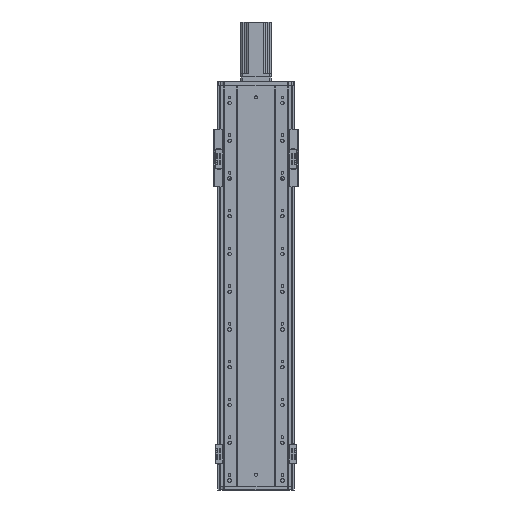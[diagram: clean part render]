
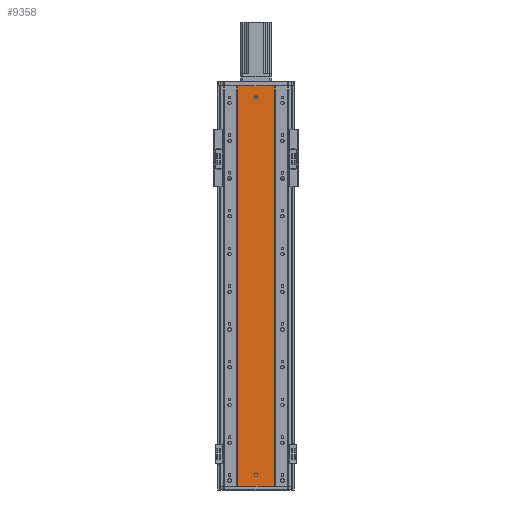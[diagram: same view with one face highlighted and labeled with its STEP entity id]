
A CAD part, front view. The second image highlights one B-rep face of the part: STEP entity #9358.
In plain terms, the highlighted planar face has unit normal (0, -1, 0).
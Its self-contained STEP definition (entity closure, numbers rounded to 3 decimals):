
#3970 = EDGE_LOOP ( 'NONE', ( #28263, #28225, #28041, #28195 ) ) ;
#3987 = EDGE_LOOP ( 'NONE', ( #28201, #28217 ) ) ;
#4002 = EDGE_LOOP ( 'NONE', ( #28275, #28169 ) ) ;
#4286 = CARTESIAN_POINT ( 'NONE',  ( 86.97, 79.476, 1060. ) ) ;
#4344 = CARTESIAN_POINT ( 'NONE',  ( 185.97, 79.476, 0. ) ) ;
#4377 = CARTESIAN_POINT ( 'NONE',  ( 86.97, 79.476, 0. ) ) ;
#4418 = CARTESIAN_POINT ( 'NONE',  ( 185.97, 79.476, 1060. ) ) ;
#6574 = B_SPLINE_CURVE_WITH_KNOTS ( 'NONE', 3,
 ( #30437, #30419, #30417, #30429 ),
 .UNSPECIFIED., .F., .F.,
 ( 4, 4 ),
 ( 0., 1. ),
 .UNSPECIFIED. ) ;
#6575 = B_SPLINE_CURVE_WITH_KNOTS ( 'NONE', 3,
 ( #30362, #30395, #30389, #30373 ),
 .UNSPECIFIED., .F., .F.,
 ( 4, 4 ),
 ( 0., 1. ),
 .UNSPECIFIED. ) ;
#6875 = VERTEX_POINT ( 'NONE', #4344 ) ;
#6877 = VERTEX_POINT ( 'NONE', #4286 ) ;
#6951 = VERTEX_POINT ( 'NONE', #4377 ) ;
#6974 = VERTEX_POINT ( 'NONE', #4418 ) ;
#9358 = ADVANCED_FACE ( 'NONE', ( #10814, #10829, #10816 ), #42337, .F. ) ;
#10814 = FACE_BOUND ( 'NONE', #3987, .T. ) ;
#10816 = FACE_OUTER_BOUND ( 'NONE', #3970, .T. ) ;
#10829 = FACE_BOUND ( 'NONE', #4002, .T. ) ;
#14788 = CARTESIAN_POINT ( 'NONE',  ( 136.47, 79.476, 1030. ) ) ;
#14805 = DIRECTION ( 'NONE',  ( 0., 0., -1. ) ) ;
#14843 = DIRECTION ( 'NONE',  ( 0., -1., 0. ) ) ;
#16161 = VECTOR ( 'NONE', #30359, 1000. ) ;
#16194 = CIRCLE ( 'NONE', #29480, 4. ) ;
#16200 = LINE ( 'NONE', #30331, #16161 ) ;
#16211 = CIRCLE ( 'NONE', #29459, 4. ) ;
#16252 = LINE ( 'NONE', #30435, #16255 ) ;
#16255 = VECTOR ( 'NONE', #30440, 1000. ) ;
#16783 = CARTESIAN_POINT ( 'NONE',  ( 136.47, 79.476, 30. ) ) ;
#16792 = DIRECTION ( 'NONE',  ( 0., -1., 0. ) ) ;
#16800 = DIRECTION ( 'NONE',  ( 0., 0., -1. ) ) ;
#19469 = CIRCLE ( 'NONE', #29723, 4. ) ;
#19577 = CIRCLE ( 'NONE', #29784, 4. ) ;
#20109 = VERTEX_POINT ( 'NONE', #26484 ) ;
#21192 = VERTEX_POINT ( 'NONE', #37861 ) ;
#21204 = VERTEX_POINT ( 'NONE', #37892 ) ;
#21237 = VERTEX_POINT ( 'NONE', #38004 ) ;
#26484 = CARTESIAN_POINT ( 'NONE',  ( 136.47, 79.476, 34. ) ) ;
#28041 = ORIENTED_EDGE ( 'NONE', *, *, #34363, .F. ) ;
#28169 = ORIENTED_EDGE ( 'NONE', *, *, #36331, .F. ) ;
#28195 = ORIENTED_EDGE ( 'NONE', *, *, #34344, .T. ) ;
#28201 = ORIENTED_EDGE ( 'NONE', *, *, #34284, .F. ) ;
#28217 = ORIENTED_EDGE ( 'NONE', *, *, #36112, .F. ) ;
#28225 = ORIENTED_EDGE ( 'NONE', *, *, #34359, .F. ) ;
#28263 = ORIENTED_EDGE ( 'NONE', *, *, #34282, .T. ) ;
#28275 = ORIENTED_EDGE ( 'NONE', *, *, #34291, .F. ) ;
#29459 = AXIS2_PLACEMENT_3D ( 'NONE', #30347, #30352, #30346 ) ;
#29480 = AXIS2_PLACEMENT_3D ( 'NONE', #30334, #30330, #30357 ) ;
#29723 = AXIS2_PLACEMENT_3D ( 'NONE', #14788, #14843, #14805 ) ;
#29784 = AXIS2_PLACEMENT_3D ( 'NONE', #16783, #16792, #16800 ) ;
#30330 = DIRECTION ( 'NONE',  ( 0., -1., 0. ) ) ;
#30331 = CARTESIAN_POINT ( 'NONE',  ( 0., 79.476, 0. ) ) ;
#30334 = CARTESIAN_POINT ( 'NONE',  ( 136.47, 79.476, 1030. ) ) ;
#30346 = DIRECTION ( 'NONE',  ( 0., 0., -1. ) ) ;
#30347 = CARTESIAN_POINT ( 'NONE',  ( 136.47, 79.476, 30. ) ) ;
#30352 = DIRECTION ( 'NONE',  ( 0., -1., 0. ) ) ;
#30357 = DIRECTION ( 'NONE',  ( 0., 0., -1. ) ) ;
#30359 = DIRECTION ( 'NONE',  ( 1., 0., 0. ) ) ;
#30362 = CARTESIAN_POINT ( 'NONE',  ( 86.97, 79.476, 1060. ) ) ;
#30373 = CARTESIAN_POINT ( 'NONE',  ( 86.97, 79.476, 0. ) ) ;
#30389 = CARTESIAN_POINT ( 'NONE',  ( 86.97, 79.476, 353.333 ) ) ;
#30395 = CARTESIAN_POINT ( 'NONE',  ( 86.97, 79.476, 706.667 ) ) ;
#30417 = CARTESIAN_POINT ( 'NONE',  ( 185.97, 79.476, 353.333 ) ) ;
#30419 = CARTESIAN_POINT ( 'NONE',  ( 185.97, 79.476, 706.667 ) ) ;
#30429 = CARTESIAN_POINT ( 'NONE',  ( 185.97, 79.476, 0. ) ) ;
#30435 = CARTESIAN_POINT ( 'NONE',  ( 0., 79.476, 1060. ) ) ;
#30437 = CARTESIAN_POINT ( 'NONE',  ( 185.97, 79.476, 1060. ) ) ;
#30440 = DIRECTION ( 'NONE',  ( 1., 0., 0. ) ) ;
#34282 = EDGE_CURVE ( 'NONE', #6951, #6875, #16200, .T. ) ;
#34284 = EDGE_CURVE ( 'NONE', #21192, #21204, #16194, .T. ) ;
#34291 = EDGE_CURVE ( 'NONE', #21237, #20109, #16211, .T. ) ;
#34344 = EDGE_CURVE ( 'NONE', #6877, #6951, #6575, .T. ) ;
#34359 = EDGE_CURVE ( 'NONE', #6974, #6875, #6574, .T. ) ;
#34363 = EDGE_CURVE ( 'NONE', #6877, #6974, #16252, .T. ) ;
#36112 = EDGE_CURVE ( 'NONE', #21204, #21192, #19469, .T. ) ;
#36331 = EDGE_CURVE ( 'NONE', #20109, #21237, #19577, .T. ) ;
#37861 = CARTESIAN_POINT ( 'NONE',  ( 136.47, 79.476, 1026. ) ) ;
#37892 = CARTESIAN_POINT ( 'NONE',  ( 136.47, 79.476, 1034. ) ) ;
#38004 = CARTESIAN_POINT ( 'NONE',  ( 136.47, 79.476, 26. ) ) ;
#41100 = AXIS2_PLACEMENT_3D ( 'NONE', #42338, #42340, #42343 ) ;
#42337 = PLANE ( 'NONE',  #41100 ) ;
#42338 = CARTESIAN_POINT ( 'NONE',  ( 0., 79.476, 1060. ) ) ;
#42340 = DIRECTION ( 'NONE',  ( 0., 1., 0. ) ) ;
#42343 = DIRECTION ( 'NONE',  ( 0., 0., 1. ) ) ;
